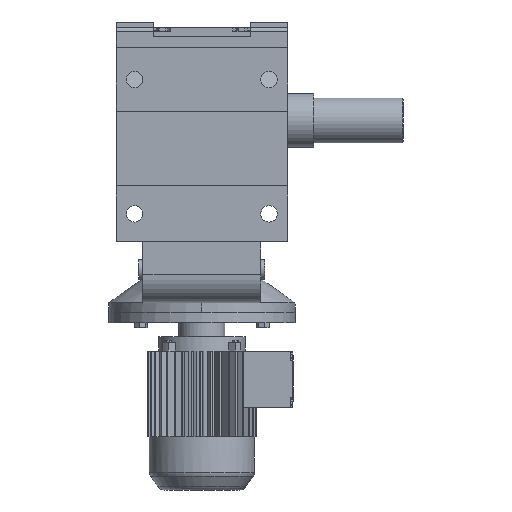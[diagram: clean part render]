
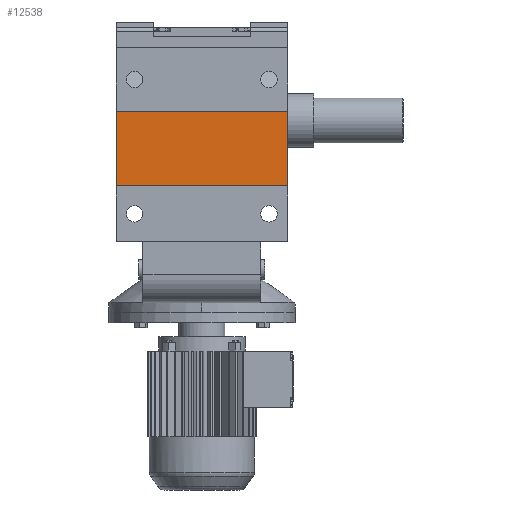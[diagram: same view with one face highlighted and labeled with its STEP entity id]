
A CAD part, front view. The second image highlights one B-rep face of the part: STEP entity #12538.
In plain terms, the highlighted planar face has unit normal (0, -1, 0).
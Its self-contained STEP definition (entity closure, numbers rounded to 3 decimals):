
#554 = PLANE('',#555);
#555 = AXIS2_PLACEMENT_3D('',#556,#557,#558);
#556 = CARTESIAN_POINT('',(115.,-167.58,95.));
#557 = DIRECTION('',(1.,0.,0.));
#558 = DIRECTION('',(0.,0.,-1.));
#3195 = VERTEX_POINT('',#3196);
#3196 = CARTESIAN_POINT('',(115.,-204.58,12.5));
#3210 = PLANE('',#3211);
#3211 = AXIS2_PLACEMENT_3D('',#3212,#3213,#3214);
#3212 = CARTESIAN_POINT('',(115.,-204.58,12.5));
#3213 = DIRECTION('',(0.,0.,1.));
#3214 = DIRECTION('',(1.,0.,0.));
#3222 = EDGE_CURVE('',#3195,#3223,#3225,.T.);
#3223 = VERTEX_POINT('',#3224);
#3224 = CARTESIAN_POINT('',(115.,-204.58,-87.5));
#3225 = SURFACE_CURVE('',#3226,(#3230,#3237),.PCURVE_S1.);
#3226 = LINE('',#3227,#3228);
#3227 = CARTESIAN_POINT('',(115.,-204.58,12.5));
#3228 = VECTOR('',#3229,1.);
#3229 = DIRECTION('',(0.,0.,-1.));
#3230 = PCURVE('',#554,#3231);
#3231 = DEFINITIONAL_REPRESENTATION('',(#3232),#3236);
#3232 = LINE('',#3233,#3234);
#3233 = CARTESIAN_POINT('',(82.5,-37.));
#3234 = VECTOR('',#3235,1.);
#3235 = DIRECTION('',(1.,0.));
#3236 = ( GEOMETRIC_REPRESENTATION_CONTEXT(2) 
PARAMETRIC_REPRESENTATION_CONTEXT() REPRESENTATION_CONTEXT('2D SPACE',''
  ) );
#3237 = PCURVE('',#3238,#3243);
#3238 = PLANE('',#3239);
#3239 = AXIS2_PLACEMENT_3D('',#3240,#3241,#3242);
#3240 = CARTESIAN_POINT('',(79.,-204.58,100.));
#3241 = DIRECTION('',(0.,1.,0.));
#3242 = DIRECTION('',(0.,0.,1.));
#3243 = DEFINITIONAL_REPRESENTATION('',(#3244),#3248);
#3244 = LINE('',#3245,#3246);
#3245 = CARTESIAN_POINT('',(-87.5,36.));
#3246 = VECTOR('',#3247,1.);
#3247 = DIRECTION('',(-1.,0.));
#3248 = ( GEOMETRIC_REPRESENTATION_CONTEXT(2) 
PARAMETRIC_REPRESENTATION_CONTEXT() REPRESENTATION_CONTEXT('2D SPACE',''
  ) );
#3266 = PLANE('',#3267);
#3267 = AXIS2_PLACEMENT_3D('',#3268,#3269,#3270);
#3268 = CARTESIAN_POINT('',(115.,-204.58,-87.5));
#3269 = DIRECTION('',(0.,0.,-1.));
#3270 = DIRECTION('',(-1.,0.,0.));
#6126 = PLANE('',#6127);
#6127 = AXIS2_PLACEMENT_3D('',#6128,#6129,#6130);
#6128 = CARTESIAN_POINT('',(-115.,-167.58,95.));
#6129 = DIRECTION('',(1.,0.,0.));
#6130 = DIRECTION('',(0.,0.,-1.));
#12079 = VERTEX_POINT('',#12080);
#12080 = CARTESIAN_POINT('',(-115.,-204.58,-87.5));
#12103 = EDGE_CURVE('',#3223,#12079,#12104,.T.);
#12104 = SURFACE_CURVE('',#12105,(#12109,#12116),.PCURVE_S1.);
#12105 = LINE('',#12106,#12107);
#12106 = CARTESIAN_POINT('',(115.,-204.58,-87.5));
#12107 = VECTOR('',#12108,1.);
#12108 = DIRECTION('',(-1.,0.,0.));
#12109 = PCURVE('',#3266,#12110);
#12110 = DEFINITIONAL_REPRESENTATION('',(#12111),#12115);
#12111 = LINE('',#12112,#12113);
#12112 = CARTESIAN_POINT('',(0.,0.));
#12113 = VECTOR('',#12114,1.);
#12114 = DIRECTION('',(1.,0.));
#12115 = ( GEOMETRIC_REPRESENTATION_CONTEXT(2) 
PARAMETRIC_REPRESENTATION_CONTEXT() REPRESENTATION_CONTEXT('2D SPACE',''
  ) );
#12116 = PCURVE('',#3238,#12117);
#12117 = DEFINITIONAL_REPRESENTATION('',(#12118),#12122);
#12118 = LINE('',#12119,#12120);
#12119 = CARTESIAN_POINT('',(-187.5,36.));
#12120 = VECTOR('',#12121,1.);
#12121 = DIRECTION('',(0.,-1.));
#12122 = ( GEOMETRIC_REPRESENTATION_CONTEXT(2) 
PARAMETRIC_REPRESENTATION_CONTEXT() REPRESENTATION_CONTEXT('2D SPACE',''
  ) );
#12494 = VERTEX_POINT('',#12495);
#12495 = CARTESIAN_POINT('',(-115.,-204.58,12.5));
#12516 = EDGE_CURVE('',#3195,#12494,#12517,.T.);
#12517 = SURFACE_CURVE('',#12518,(#12522,#12529),.PCURVE_S1.);
#12518 = LINE('',#12519,#12520);
#12519 = CARTESIAN_POINT('',(115.,-204.58,12.5));
#12520 = VECTOR('',#12521,1.);
#12521 = DIRECTION('',(-1.,0.,0.));
#12522 = PCURVE('',#3210,#12523);
#12523 = DEFINITIONAL_REPRESENTATION('',(#12524),#12528);
#12524 = LINE('',#12525,#12526);
#12525 = CARTESIAN_POINT('',(0.,0.));
#12526 = VECTOR('',#12527,1.);
#12527 = DIRECTION('',(-1.,0.));
#12528 = ( GEOMETRIC_REPRESENTATION_CONTEXT(2) 
PARAMETRIC_REPRESENTATION_CONTEXT() REPRESENTATION_CONTEXT('2D SPACE',''
  ) );
#12529 = PCURVE('',#3238,#12530);
#12530 = DEFINITIONAL_REPRESENTATION('',(#12531),#12535);
#12531 = LINE('',#12532,#12533);
#12532 = CARTESIAN_POINT('',(-87.5,36.));
#12533 = VECTOR('',#12534,1.);
#12534 = DIRECTION('',(0.,-1.));
#12535 = ( GEOMETRIC_REPRESENTATION_CONTEXT(2) 
PARAMETRIC_REPRESENTATION_CONTEXT() REPRESENTATION_CONTEXT('2D SPACE',''
  ) );
#12538 = ADVANCED_FACE('',(#12539),#3238,.F.);
#12539 = FACE_BOUND('',#12540,.T.);
#12540 = EDGE_LOOP('',(#12541,#12542,#12563,#12564));
#12541 = ORIENTED_EDGE('',*,*,#12516,.T.);
#12542 = ORIENTED_EDGE('',*,*,#12543,.T.);
#12543 = EDGE_CURVE('',#12494,#12079,#12544,.T.);
#12544 = SURFACE_CURVE('',#12545,(#12549,#12556),.PCURVE_S1.);
#12545 = LINE('',#12546,#12547);
#12546 = CARTESIAN_POINT('',(-115.,-204.58,12.5));
#12547 = VECTOR('',#12548,1.);
#12548 = DIRECTION('',(0.,0.,-1.));
#12549 = PCURVE('',#3238,#12550);
#12550 = DEFINITIONAL_REPRESENTATION('',(#12551),#12555);
#12551 = LINE('',#12552,#12553);
#12552 = CARTESIAN_POINT('',(-87.5,-194.));
#12553 = VECTOR('',#12554,1.);
#12554 = DIRECTION('',(-1.,0.));
#12555 = ( GEOMETRIC_REPRESENTATION_CONTEXT(2) 
PARAMETRIC_REPRESENTATION_CONTEXT() REPRESENTATION_CONTEXT('2D SPACE',''
  ) );
#12556 = PCURVE('',#6126,#12557);
#12557 = DEFINITIONAL_REPRESENTATION('',(#12558),#12562);
#12558 = LINE('',#12559,#12560);
#12559 = CARTESIAN_POINT('',(82.5,-37.));
#12560 = VECTOR('',#12561,1.);
#12561 = DIRECTION('',(1.,0.));
#12562 = ( GEOMETRIC_REPRESENTATION_CONTEXT(2) 
PARAMETRIC_REPRESENTATION_CONTEXT() REPRESENTATION_CONTEXT('2D SPACE',''
  ) );
#12563 = ORIENTED_EDGE('',*,*,#12103,.F.);
#12564 = ORIENTED_EDGE('',*,*,#3222,.F.);
